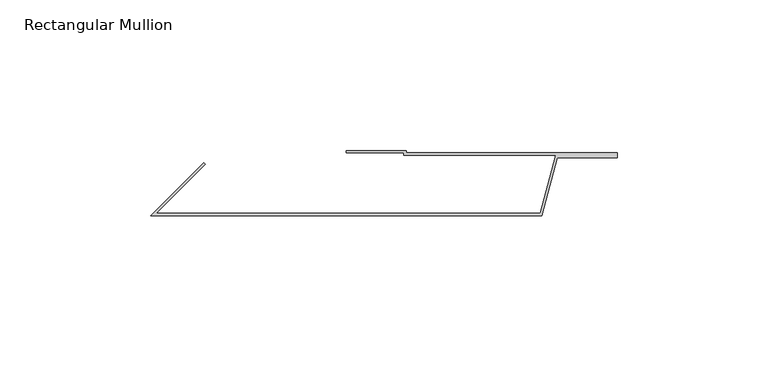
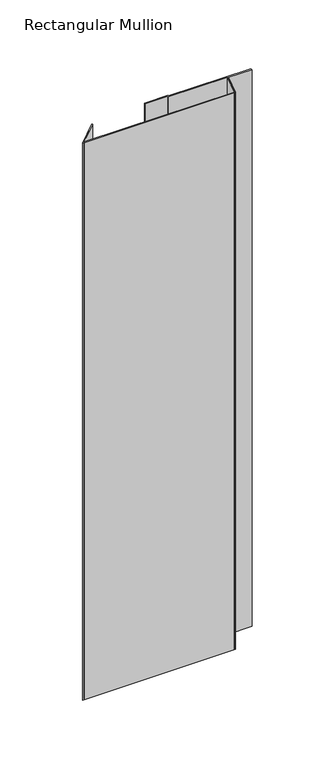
"""IFC4 building model written with IfcOpenShell, lengths in millimetres: member geometry, Rectangular Mullion : TI-V-01_02_Joint flashing."""

import ifcopenshell
import ifcopenshell.guid

model = None  # the IFC model being written
_history = None  # IfcOwnerHistory: only IFC2X3 demands one
_inside = {}  # id of a spatial element -> (the spatial element, [elements in it])
_under = {}  # id of a project, library or spatial element -> (it, [spatial elements below it])
_declared = {}  # id of a project -> (the project, [libraries it declares])
_typed = {}  # id of a type object -> (the type object, [elements of that type])
_made_of = {}  # id of a material, layer set ... -> (it, [elements and type objects made of it])


def new_model(schema):
    """Start an empty IFC model of exactly this schema.

    Asked for "IFC4X3", IfcOpenShell would pick the latest addendum, in which some entities
    have other attributes; the version numbers below select the first issue.
    IFC2X3 requires an IfcOwnerHistory on every rooted entity: one is made here for all.
    """
    global model, _history
    if schema == "IFC4X3":
        model = ifcopenshell.file(schema_version=(4, 3, 0, 0))
    else:
        model = ifcopenshell.file(schema=schema)
    _inside.clear()
    _under.clear()
    _declared.clear()
    _typed.clear()
    _made_of.clear()
    _history = None
    if model.schema == "IFC2X3":
        org = make("IfcOrganization", Name="unknown")
        user = make(
            "IfcPersonAndOrganization",
            ThePerson=make("IfcPerson", FamilyName="unknown"),
            TheOrganization=org,
        )
        app = make(
            "IfcApplication",
            ApplicationDeveloper=org,
            Version="unknown",
            ApplicationFullName="unknown",
            ApplicationIdentifier="unknown",
        )
        _history = make(
            "IfcOwnerHistory",
            OwningUser=user,
            OwningApplication=app,
            ChangeAction="ADDED",
            CreationDate=0,
        )
    return model


def make(cls, **values):
    """One entity of the class cls with the attributes given. An attribute that is None is left unset."""
    return model.create_entity(
        cls, **{name: value for name, value in values.items() if value is not None}
    )


def rooted(cls, **values):
    """An entity with a GlobalId (a new one), such as an element, a storey or a relation."""
    return make(cls, GlobalId=ifcopenshell.guid.new(), OwnerHistory=_history, **values)


def si_unit(unit_type, name, prefix=None):
    """IfcSIUnit, for example si_unit("LENGTHUNIT", "METRE", prefix="MILLI")."""
    return make("IfcSIUnit", UnitType=unit_type, Prefix=prefix, Name=name)


def assignment(units):
    """IfcUnitAssignment: the units of a project."""
    return None if units is None else make("IfcUnitAssignment", Units=units)


def point(xyz):
    """IfcCartesianPoint."""
    return None if xyz is None else make("IfcCartesianPoint", Coordinates=xyz)


def direction(xyz):
    """IfcDirection."""
    return None if xyz is None else make("IfcDirection", DirectionRatios=xyz)


def frame(location, z_axis=None, x_axis=None):
    """IfcAxis2Placement3D, a coordinate frame: its origin and axes. An axis left out is left unset."""
    return make(
        "IfcAxis2Placement3D",
        Location=point(location),
        Axis=direction(z_axis),
        RefDirection=direction(x_axis),
    )


def origin():
    """The frame at (0, 0, 0) with its axes left unset."""
    return frame((0.0, 0.0, 0.0))


def place(relative_to, where):
    """IfcLocalPlacement: puts the frame where relative to a parent placement (None: the world)."""
    return make(
        "IfcLocalPlacement", PlacementRelTo=relative_to, RelativePlacement=where
    )


def context(
    kind, dimensions, precision=None, world=None, true_north=None, identifier=None
):
    """IfcGeometricRepresentationContext, for example the 3D "Model" context."""
    return make(
        "IfcGeometricRepresentationContext",
        ContextIdentifier=identifier,
        ContextType=kind,
        CoordinateSpaceDimension=dimensions,
        Precision=precision,
        WorldCoordinateSystem=world,
        TrueNorth=true_north,
    )


def project(units=None, contexts=None):
    """IfcProject with its units and contexts."""
    return rooted(
        "IfcProject",
        Name="project",
        RepresentationContexts=contexts,
        UnitsInContext=assignment(units),
    )


def spatial(cls, under=None, at=None, **own):
    """A site, building, storey or space (cls), placed at a placement, below another one or the project."""
    s = rooted(cls, ObjectPlacement=at, **own)
    if under is not None:
        _under.setdefault(under.id(), (under, []))[1].append(s)
    return s


def polyline(points):
    """IfcPolyline through the points."""
    return make("IfcPolyline", Points=[point(p) for p in points])


def outline(outer, holes=None, kind="AREA"):
    """IfcArbitraryClosedProfileDef: a profile drawn as a closed curve; with holes, ...WithVoids."""
    if holes is None:
        return make("IfcArbitraryClosedProfileDef", ProfileType=kind, OuterCurve=outer)
    return make(
        "IfcArbitraryProfileDefWithVoids",
        ProfileType=kind,
        OuterCurve=outer,
        InnerCurves=holes,
    )


def extrude(swept, where, along, depth):
    """IfcExtrudedAreaSolid: the profile swept, set in the frame where, extruded along a direction by depth."""
    return make(
        "IfcExtrudedAreaSolid",
        SweptArea=swept,
        Position=where,
        ExtrudedDirection=direction(along),
        Depth=depth,
    )


def shape(context_of_items, identifier, shape_type, items):
    """IfcShapeRepresentation: the items that make up one representation, for example the "Body"."""
    return make(
        "IfcShapeRepresentation",
        ContextOfItems=context_of_items,
        RepresentationIdentifier=identifier,
        RepresentationType=shape_type,
        Items=items,
    )


def source(mapping_origin, context_of_items, identifier, shape_type, items):
    """IfcRepresentationMap: a shape defined once, which mapped items show again and again."""
    return make(
        "IfcRepresentationMap",
        MappingOrigin=mapping_origin,
        MappedRepresentation=shape(context_of_items, identifier, shape_type, items),
    )


def transform(
    local_origin,
    x_axis=None,
    y_axis=None,
    z_axis=None,
    scale=None,
    scale2=None,
    scale3=None,
    uniform=True,
):
    """IfcCartesianTransformationOperator3D, or its non-uniform kind. x_axis, y_axis, z_axis: its Axis1, 2, 3."""
    if uniform:
        return make(
            "IfcCartesianTransformationOperator3D",
            Axis1=direction(x_axis),
            Axis2=direction(y_axis),
            LocalOrigin=point(local_origin),
            Scale=scale,
            Axis3=direction(z_axis),
        )
    return make(
        "IfcCartesianTransformationOperator3DnonUniform",
        Axis1=direction(x_axis),
        Axis2=direction(y_axis),
        LocalOrigin=point(local_origin),
        Scale=scale,
        Axis3=direction(z_axis),
        Scale2=scale2,
        Scale3=scale3,
    )


def mapped(mapping_source, mapping_target):
    """IfcMappedItem: shows the shape of a source again, moved by a transform."""
    return make(
        "IfcMappedItem", MappingSource=mapping_source, MappingTarget=mapping_target
    )


def made_of(thing, what):
    """Note that an element or type object is made of a material, layer set ...; save() writes the relation."""
    if what is not None:
        _made_of.setdefault(what.id(), (what, []))[1].append(thing)
    return thing


def element(
    cls,
    number,
    at=None,
    inside=None,
    cuts=None,
    type_object=None,
    material=None,
    context=None,
    identifier="Body",
    shape_type=None,
    held_by="IfcProductDefinitionShape",
    body=None,
    shapes=None,
    **own,
):
    """One element of the class cls, such as IfcWall. Its Tag is "e" and its number.

    at: its placement. inside: the storey or other place that contains it. cuts: it is an
    opening in that element (IfcRelVoidsElement). A single representation is given by context,
    identifier, shape_type and body (its items); several are given by shapes. held_by: the class
    of the entity that holds the representations. save() writes the other relations.
    """
    e = rooted(cls, Tag="e%d" % number, ObjectPlacement=at, **own)
    if body is not None:
        shapes = [shape(context, identifier, shape_type, body)]
    if shapes is not None:
        e.Representation = make(held_by, Representations=shapes)
    if inside is not None:
        _inside.setdefault(inside.id(), (inside, []))[1].append(e)
    if cuts is not None:
        rooted(
            "IfcRelVoidsElement", RelatingBuildingElement=cuts, RelatedOpeningElement=e
        )
    if type_object is not None:
        _typed.setdefault(type_object.id(), (type_object, []))[1].append(e)
    return made_of(e, material)


def aggregate(whole, parts):
    """IfcRelAggregates: a whole, such as a stair, and the parts it consists of."""
    return rooted("IfcRelAggregates", RelatingObject=whole, RelatedObjects=parts)


def save(model, path):
    """Write the relations noted so far, then the file.

    IfcRelAggregates (storeys below a building ...), IfcRelContainedInSpatialStructure (elements
    in a storey), IfcRelDefinesByType, IfcRelAssociatesMaterial and IfcRelDeclares: one each for
    every whole, place, type object, material and project.
    """
    for whole, parts in _under.values():
        aggregate(whole, parts)
    for where, things in _inside.values():
        rooted(
            "IfcRelContainedInSpatialStructure",
            RelatedElements=things,
            RelatingStructure=where,
        )
    for kind, things in _typed.values():
        rooted("IfcRelDefinesByType", RelatedObjects=things, RelatingType=kind)
    for what, things in _made_of.values():
        rooted("IfcRelAssociatesMaterial", RelatedObjects=things, RelatingMaterial=what)
    for by, libraries in _declared.values():
        rooted("IfcRelDeclares", RelatingContext=by, RelatedDefinitions=libraries)
    model.write(path)


def rectangular_mullion_88eb2caa(model_context):
    return source(origin(), model_context, "Body", "SweptSolid", [
        extrude(outline(polyline([(0.0, 0.0), (0.0, -0.8), (70.1186468, -0.8), (70.1186468, -2.4), (50.1763809, -2.4), (45.0, -21.7185165), (-85.0, -21.7185165), (-67.3223305, -4.040847), (-66.756645, -4.6065324), (-83.0686292, -20.9185165), (44.3861384, -20.9185165), (49.5625193, -1.6), (-0.8, -1.6), (-0.8, -0.8), (-20.0, -0.8), (-20.0, 0.0), (0.0, 0.0)])), frame((0.0, 0.0, -500.0000003), z_axis=(0.0, 0.0, 1.0), x_axis=(1.0, 0.0, 0.0)), (0.0, 0.0, 1.0), 500.0000003),
    ])


if __name__ == "__main__":
    model = new_model("IFC4")
    model_context = context("Model", 3, world=origin())
    ifc_project = project(units=[si_unit("LENGTHUNIT", "METRE", prefix="MILLI")], contexts=[model_context])
    site = spatial("IfcSite", under=ifc_project)
    building = spatial("IfcBuilding", under=site)
    placement = place(None, origin())
    rectangular_mullion_shape = rectangular_mullion_88eb2caa(model_context)
    element("IfcMember", 1, ObjectType="Rectangular Mullion : TI-V-01_02_Joint flashing", at=placement, inside=building, context=model_context, shape_type="MappedRepresentation", body=[
        mapped(rectangular_mullion_shape, transform((0.0, 0.0, 0.0), x_axis=(1.0, 0.0, 0.0), y_axis=(0.0, 1.0, 0.0), z_axis=(0.0, 0.0, 1.0))),
    ])
    save(model, "model.ifc")
